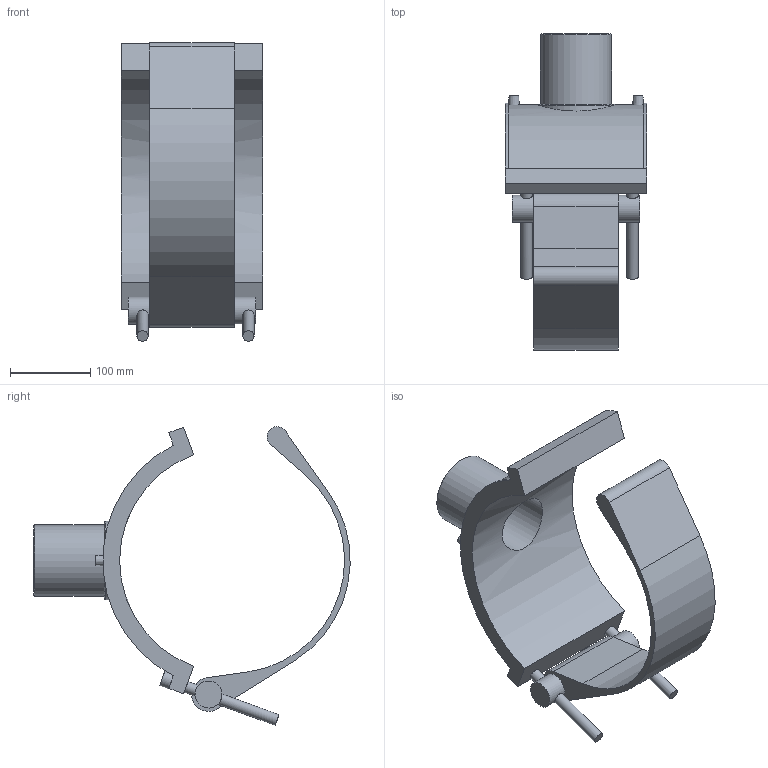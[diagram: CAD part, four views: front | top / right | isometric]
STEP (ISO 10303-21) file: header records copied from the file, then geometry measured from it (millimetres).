
FILE_DESCRIPTION(/* description */ ('PLASSON BRANCH SADDLE 10''''DIPS x 3''''IPS'),/* implementation_level */ '2;1');
FILE_NAME(/* name */ 'C:\Dropbox\KIMPROJECTS-Inventor 2019\99-16-3568-Processing Inch\ASTM ElectroFusion 2021\5958D (2)\5958DB03100030.ipt.stp',/* time_stamp */ '2021-08-30T09:54:35+03:00',/* author */ ('KIM'),/* organization */ (''),/* preprocessor_version */ 'ST-DEVELOPER v17.2',/* originating_system */ 'Autodesk Inventor 2019',/* authorisation */ '');
FILE_SCHEMA (('AUTOMOTIVE_DESIGN { 1 0 10303 214 3 1 1 }'));
Length unit declared in the file: inch
Products named in the file (1): 5958DB03100030
Bounding box: 176.02 x 394.45 x 372.36 mm (x, y, z)
Volume: 2202184.9 mm3; surface area: 343326.8 mm2
Topology: 1 solids, 1 shells, 60 faces, 140 edges, 96 vertices
Faces by surface type: plane 32, cylinder 24, cone 3, torus 1
Full cylindrical faces by diameter (mm): 4 x2, 10 x2, 14.03 x4, 19.642 x2, 33.672 x2, 70.96 x1, 88.7 x1
Entity records: 2124 total; most frequent: CARTESIAN_POINT 664, DIRECTION 299, ORIENTED_EDGE 280, EDGE_CURVE 140, AXIS2_PLACEMENT_3D 117, VERTEX_POINT 96, EDGE_LOOP 78, LINE 65
